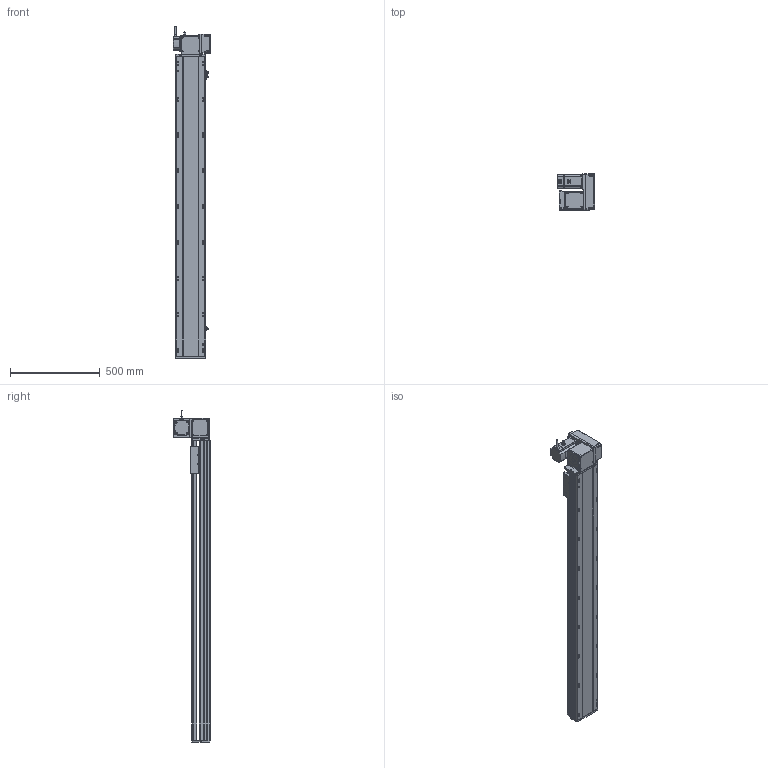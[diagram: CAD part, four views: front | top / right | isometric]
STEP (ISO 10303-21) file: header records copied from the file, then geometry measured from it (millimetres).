
FILE_DESCRIPTION (( 'STEP AP214' ), '1' );
FILE_NAME ('RTB17S-XX-1400-RW-M75-C4.STEP', '2025-12-12T02:38:26', ( '' ), ( '' ), 'SwSTEP 2.0', 'SolidWorks 2018', '' );
FILE_SCHEMA (( 'AUTOMOTIVE_DESIGN' ));
Length unit declared in the file: millimetre
Products named in the file (15): RTB22S-GY-005P^RTB17S-RW-々湍釱蚾饜-750W_RTB17S-XX-XX-RW-M75-C4; RTB22S-GY-008-M75--萇儂啣^RTB17S-RW-々湍釱蚾饜-750W_RTB17S-XX-XX-RW-M75-C4; RTH13-BL-012覜茼え俋离^RTB17S-賑釱_RTB17S-XX-XX-RW-M75-C4; 750W萇儂^RTB17S-XX-XX-RW-M75-C4; EE672^RTB17S-XX-XX-RW-M75-C4; RMP17S-L-014-T20-P75--々湍釱^RTB17S-RW-々湍釱蚾饜-750W_RTB17S-XX-XX-RW-M75-C4; RTB17S-L-007奻裔^RTB17S-XX-XX-RW-M75-C4; RTB17S-XX-1400-RW-M75-C4; RTB17S-L-004-賑釱^RTB17S-賑釱_RTB17S-XX-XX-RW-M75-C4; RTB17-R-011菁釱^RTB17S-XX-XX-RW-M75-C4; RTB22S-GY-017P^RTB17S-RW-々湍釱蚾饜-750W_RTB17S-XX-XX-RW-M75-C4; RTB22S-GY-018P^RTB17S-RW-々湍釱蚾饜-750W_RTB17S-XX-XX-RW-M75-C4; RTB17S-RW-々湍釱蚾饜-750W^RTB17S-XX-XX-RW-M75-C4; RTB17S-賑釱^RTB17S-XX-XX-RW-M75-C4; RTB17S-L-001-耜醱啣^RTB17S-XX-XX-RW-M75-C4
Assembly tree (17 placements, depth 3):
  RTB17S-XX-1400-RW-M75-C4
    RTB17-R-011菁釱^RTB17S-XX-XX-RW-M75-C4
    EE672^RTB17S-XX-XX-RW-M75-C4  x3
    RTB17S-L-001-耜醱啣^RTB17S-XX-XX-RW-M75-C4
    RTB17S-賑釱^RTB17S-XX-XX-RW-M75-C4
      RTB17S-L-004-賑釱^RTB17S-賑釱_RTB17S-XX-XX-RW-M75-C4
      RTH13-BL-012覜茼え俋离^RTB17S-賑釱_RTB17S-XX-XX-RW-M75-C4
    RTB17S-L-007奻裔^RTB17S-XX-XX-RW-M75-C4
    750W萇儂^RTB17S-XX-XX-RW-M75-C4
    RTB17S-RW-々湍釱蚾饜-750W^RTB17S-XX-XX-RW-M75-C4
      RMP17S-L-014-T20-P75--々湍釱^RTB17S-RW-々湍釱蚾饜-750W_RTB17S-XX-XX-RW-M75-C4
      RTB22S-GY-005P^RTB17S-RW-々湍釱蚾饜-750W_RTB17S-XX-XX-RW-M75-C4
      RTB22S-GY-017P^RTB17S-RW-々湍釱蚾饜-750W_RTB17S-XX-XX-RW-M75-C4  x2
      RTB22S-GY-008-M75--萇儂啣^RTB17S-RW-々湍釱蚾饜-750W_RTB17S-XX-XX-RW-M75-C4
      RTB22S-GY-018P^RTB17S-RW-々湍釱蚾饜-750W_RTB17S-XX-XX-RW-M75-C4
Bounding box: 207.4 x 201.5 x 1852.2 mm (x, y, z)
Volume: 14704223.7 mm3; surface area: 2561351.4 mm2
Topology: 17 solids, 17 shells, 2121 faces, 5890 edges, 3806 vertices
Faces by surface type: plane 974, cylinder 731, bspline 294, cone 110, sphere 8, torus 4
Entity records: 59638 total; most frequent: CARTESIAN_POINT 17554, ORIENTED_EDGE 8624, DIRECTION 8042, EDGE_CURVE 4312, AXIS2_PLACEMENT_3D 2826, VERTEX_POINT 2810, VECTOR 2390, LINE 2390
